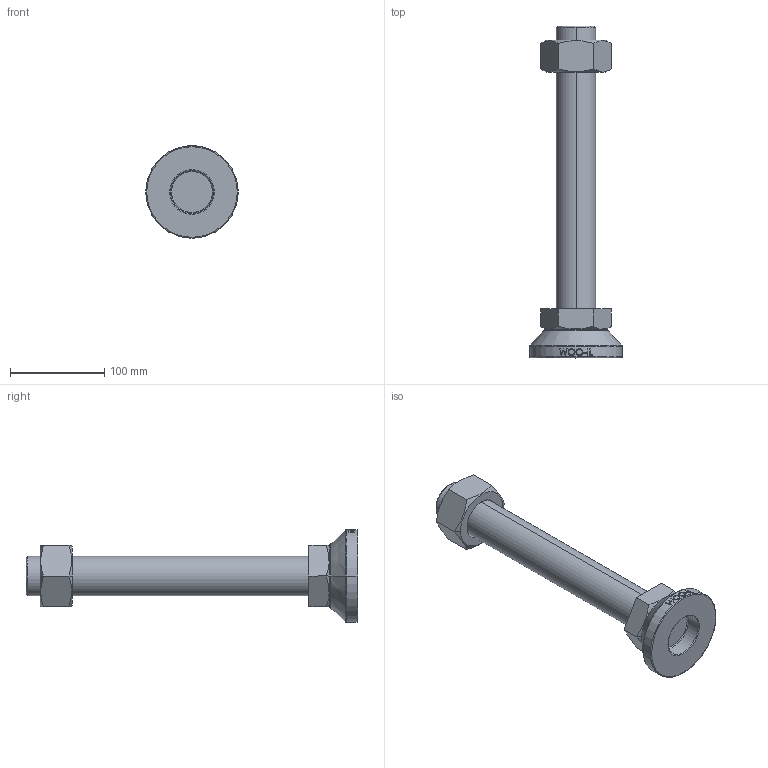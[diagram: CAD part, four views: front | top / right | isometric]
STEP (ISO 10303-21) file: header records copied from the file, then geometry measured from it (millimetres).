
FILE_DESCRIPTION (( 'STEP AP214' ), '1' );
FILE_NAME ('MF98-M42-300.step', '2021-02-03T08:24:41', ( '' ), ( '' ), 'SwSTEP 2.0', 'SolidWorks 2019', '' );
FILE_SCHEMA (( 'AUTOMOTIVE_DESIGN' ));
Length unit declared in the file: millimetre
Products named in the file (2): MF98-M42-300
Bounding box: 98 x 352 x 98 mm (x, y, z)
Volume: 732907.3 mm3; surface area: 90617.4 mm2
Topology: 3 solids, 3 shells, 106 faces, 243 edges, 154 vertices
Faces by surface type: plane 48, cylinder 18, bspline 16, cone 14, torus 10
Entity records: 4566 total; most frequent: CARTESIAN_POINT 2223, ORIENTED_EDGE 486, DIRECTION 439, EDGE_CURVE 243, AXIS2_PLACEMENT_3D 170, VERTEX_POINT 154, EDGE_LOOP 119, FACE_OUTER_BOUND 106
